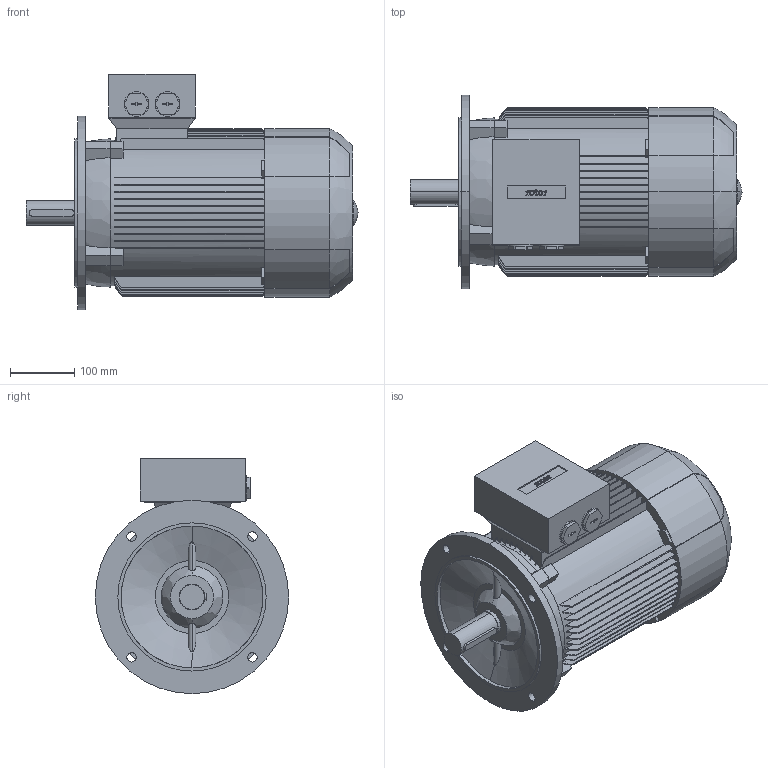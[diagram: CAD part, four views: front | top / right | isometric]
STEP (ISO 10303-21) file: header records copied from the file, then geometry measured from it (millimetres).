
FILE_DESCRIPTION (( 'STEP AP214' ), '1' );
FILE_NAME ('6RN132S04E30 IM3001.STEP', '2014-09-16T08:45:38', ( 'rbc_ict' ), ( 'REGAL' ), 'SwSTEP 2.0', 'SolidWorks 2012', '' );
FILE_SCHEMA (( 'AUTOMOTIVE_DESIGN' ));
Length unit declared in the file: millimetre
Products named in the file (1): 6RN132S04E30 IM3001
Bounding box: 515 x 300 x 365 mm (x, y, z)
Volume: 20978922.2 mm3; surface area: 873744.7 mm2
Topology: 1 solids, 1 shells, 608 faces, 1728 edges, 1141 vertices
Faces by surface type: plane 334, bspline 155, cylinder 113, cone 6
Entity records: 24624 total; most frequent: CARTESIAN_POINT 9837, ORIENTED_EDGE 3452, DIRECTION 2565, EDGE_CURVE 1726, VERTEX_POINT 1141, LINE 947, VECTOR 947, AXIS2_PLACEMENT_3D 809
